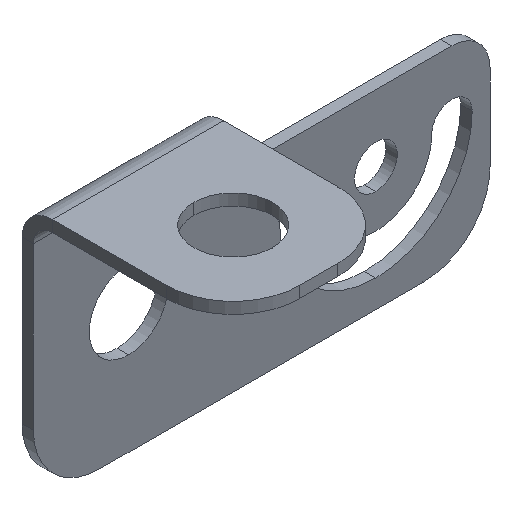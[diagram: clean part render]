
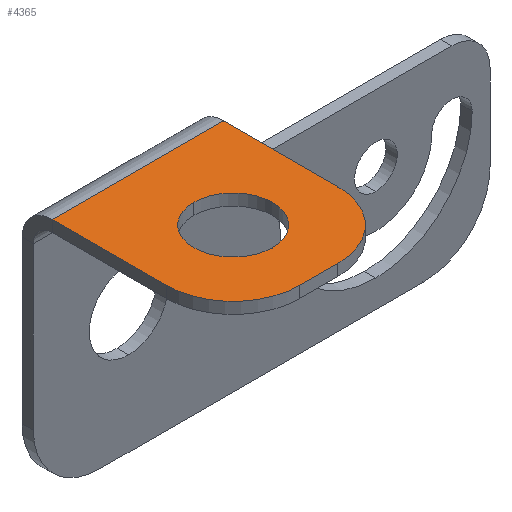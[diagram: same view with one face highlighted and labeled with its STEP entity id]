
A CAD part, isometric view. The second image highlights one B-rep face of the part: STEP entity #4365.
In plain terms, the highlighted planar face has unit normal (0, 0, 1).
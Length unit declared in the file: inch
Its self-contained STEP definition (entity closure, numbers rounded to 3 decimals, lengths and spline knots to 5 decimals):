
#288 = AXIS2_PLACEMENT_3D ( 'NONE', #1190, #10030, #4731 ) ;
#446 = EDGE_LOOP ( 'NONE', ( #3343, #1195 ) ) ;
#607 = PLANE ( 'NONE',  #5513 ) ;
#690 = VERTEX_POINT ( 'NONE', #4593 ) ;
#786 = ORIENTED_EDGE ( 'NONE', *, *, #8812, .T. ) ;
#1079 = CARTESIAN_POINT ( 'NONE',  ( 0.6875, -1.3872, 0.1997 ) ) ;
#1190 = CARTESIAN_POINT ( 'NONE',  ( 0.6875, -0.9497, 0.1997 ) ) ;
#1195 = ORIENTED_EDGE ( 'NONE', *, *, #4672, .T. ) ;
#1299 = EDGE_CURVE ( 'NONE', #3080, #690, #4368, .T. ) ;
#1310 = VERTEX_POINT ( 'NONE', #2119 ) ;
#1344 = LINE ( 'NONE', #8958, #5729 ) ;
#1418 = CARTESIAN_POINT ( 'NONE',  ( 0.5625, -0.56688, 0.1997 ) ) ;
#1489 = DIRECTION ( 'NONE',  ( 0., 0., -1. ) ) ;
#1797 = VECTOR ( 'NONE', #1884, 39.37008 ) ;
#1884 = DIRECTION ( 'NONE',  ( 1., 0., 0. ) ) ;
#1905 = EDGE_CURVE ( 'NONE', #4491, #3080, #6672, .T. ) ;
#1934 = LINE ( 'NONE', #3723, #1797 ) ;
#1970 = CARTESIAN_POINT ( 'NONE',  ( 0., -1.3872, 0.1997 ) ) ;
#2119 = CARTESIAN_POINT ( 'NONE',  ( 1.125, -0.1997, 0.1997 ) ) ;
#2466 = CIRCLE ( 'NONE', #11233, 0.4375 ) ;
#2549 = AXIS2_PLACEMENT_3D ( 'NONE', #8989, #5402, #9874 ) ;
#3070 = EDGE_CURVE ( 'NONE', #3852, #11153, #3100, .T. ) ;
#3080 = VERTEX_POINT ( 'NONE', #1079 ) ;
#3100 = LINE ( 'NONE', #9803, #7488 ) ;
#3210 = CARTESIAN_POINT ( 'NONE',  ( 0.5625, -1.08251, 0.1997 ) ) ;
#3329 = VERTEX_POINT ( 'NONE', #1418 ) ;
#3343 = ORIENTED_EDGE ( 'NONE', *, *, #10348, .T. ) ;
#3614 = DIRECTION ( 'NONE',  ( 1., 0., 0. ) ) ;
#3723 = CARTESIAN_POINT ( 'NONE',  ( 1.125, -0.1997, 0.1997 ) ) ;
#3852 = VERTEX_POINT ( 'NONE', #6138 ) ;
#4340 = DIRECTION ( 'NONE',  ( 0., 0., 1. ) ) ;
#4365 = ADVANCED_FACE ( 'NONE', ( #8653, #7672 ), #607, .F. ) ;
#4368 = CIRCLE ( 'NONE', #288, 0.4375 ) ;
#4491 = VERTEX_POINT ( 'NONE', #6967 ) ;
#4593 = CARTESIAN_POINT ( 'NONE',  ( 1.125, -0.9497, 0.1997 ) ) ;
#4672 = EDGE_CURVE ( 'NONE', #5426, #3329, #6420, .T. ) ;
#4731 = DIRECTION ( 'NONE',  ( 0., 1., 0. ) ) ;
#4775 = CARTESIAN_POINT ( 'NONE',  ( 0., -0.9497, 0.1997 ) ) ;
#4804 = ORIENTED_EDGE ( 'NONE', *, *, #1299, .T. ) ;
#5074 = EDGE_CURVE ( 'NONE', #690, #1310, #1344, .T. ) ;
#5402 = DIRECTION ( 'NONE',  ( 0., 0., -1. ) ) ;
#5426 = VERTEX_POINT ( 'NONE', #3210 ) ;
#5450 = CIRCLE ( 'NONE', #6512, 0.25782 ) ;
#5513 = AXIS2_PLACEMENT_3D ( 'NONE', #6734, #1489, #7627 ) ;
#5633 = ORIENTED_EDGE ( 'NONE', *, *, #1905, .T. ) ;
#5729 = VECTOR ( 'NONE', #8188, 39.37008 ) ;
#5793 = CARTESIAN_POINT ( 'NONE',  ( 0.5625, -0.8247, 0.1997 ) ) ;
#6104 = DIRECTION ( 'NONE',  ( 0., 1., 0. ) ) ;
#6138 = CARTESIAN_POINT ( 'NONE',  ( 0., -0.1997, 0.1997 ) ) ;
#6420 = CIRCLE ( 'NONE', #2549, 0.25782 ) ;
#6512 = AXIS2_PLACEMENT_3D ( 'NONE', #5793, #6751, #8550 ) ;
#6549 = VECTOR ( 'NONE', #3614, 39.37008 ) ;
#6672 = LINE ( 'NONE', #1970, #6549 ) ;
#6734 = CARTESIAN_POINT ( 'NONE',  ( 0., 0., 0.1997 ) ) ;
#6751 = DIRECTION ( 'NONE',  ( 0., 0., -1. ) ) ;
#6967 = CARTESIAN_POINT ( 'NONE',  ( 0.4375, -1.3872, 0.1997 ) ) ;
#7082 = ORIENTED_EDGE ( 'NONE', *, *, #3070, .T. ) ;
#7155 = ORIENTED_EDGE ( 'NONE', *, *, #8778, .F. ) ;
#7488 = VECTOR ( 'NONE', #10754, 39.37008 ) ;
#7545 = ORIENTED_EDGE ( 'NONE', *, *, #5074, .T. ) ;
#7627 = DIRECTION ( 'NONE',  ( 0., 1., 0. ) ) ;
#7672 = FACE_OUTER_BOUND ( 'NONE', #8512, .T. ) ;
#8188 = DIRECTION ( 'NONE',  ( 0., 1., 0. ) ) ;
#8512 = EDGE_LOOP ( 'NONE', ( #7082, #786, #5633, #4804, #7545, #7155 ) ) ;
#8550 = DIRECTION ( 'NONE',  ( 0., 1., 0. ) ) ;
#8653 = FACE_BOUND ( 'NONE', #446, .T. ) ;
#8778 = EDGE_CURVE ( 'NONE', #3852, #1310, #1934, .T. ) ;
#8788 = CARTESIAN_POINT ( 'NONE',  ( 0.4375, -0.9497, 0.1997 ) ) ;
#8812 = EDGE_CURVE ( 'NONE', #11153, #4491, #2466, .T. ) ;
#8958 = CARTESIAN_POINT ( 'NONE',  ( 1.125, 0., 0.1997 ) ) ;
#8989 = CARTESIAN_POINT ( 'NONE',  ( 0.5625, -0.8247, 0.1997 ) ) ;
#9803 = CARTESIAN_POINT ( 'NONE',  ( 0., 0., 0.1997 ) ) ;
#9874 = DIRECTION ( 'NONE',  ( 0., 1., 0. ) ) ;
#10030 = DIRECTION ( 'NONE',  ( 0., 0., 1. ) ) ;
#10348 = EDGE_CURVE ( 'NONE', #3329, #5426, #5450, .T. ) ;
#10754 = DIRECTION ( 'NONE',  ( 0., -1., 0. ) ) ;
#11153 = VERTEX_POINT ( 'NONE', #4775 ) ;
#11233 = AXIS2_PLACEMENT_3D ( 'NONE', #8788, #4340, #6104 ) ;
